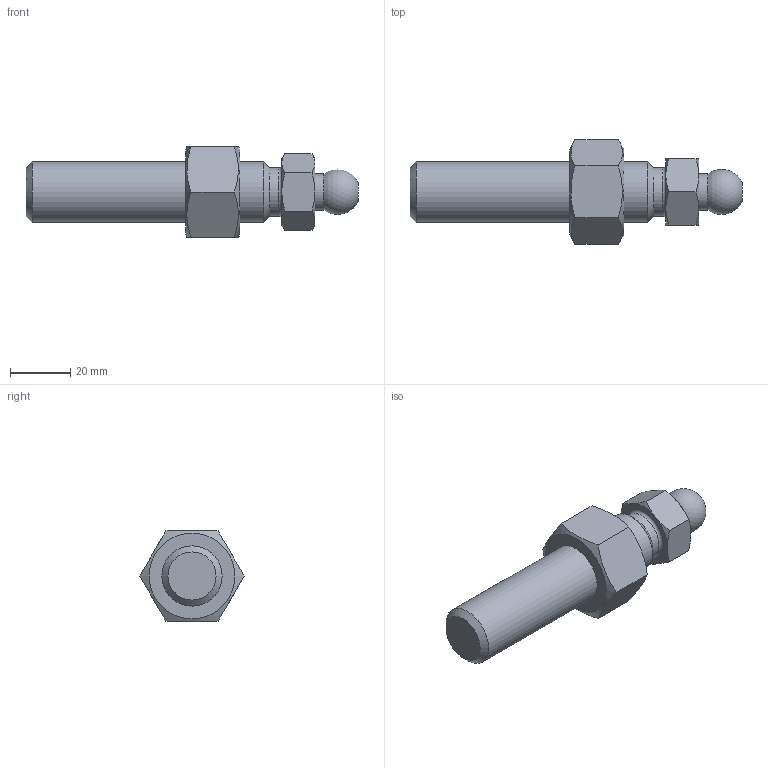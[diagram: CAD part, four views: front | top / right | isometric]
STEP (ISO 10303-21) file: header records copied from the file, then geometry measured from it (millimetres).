
FILE_DESCRIPTION(('STEP AP203'), '1');
FILE_NAME('A00020.120100 ', '', ('UNSPECIFIED'), ('UNSPECIFIED'), 'C3D Converter', 'C3D Toolkit', '');
FILE_SCHEMA(('CONFIG_CONTROL_DESIGN'));
Length unit declared in the file: millimetre
Products named in the file (2): A00020.120085
Assembly tree (1 placements, depth 2):
  A00020.120085
    (unnamed)
Bounding box: 110.3 x 34.64 x 30 mm (x, y, z)
Volume: 42072.1 mm3; surface area: 11253.7 mm2
Topology: 2 solids, 2 shells, 42 faces, 99 edges, 63 vertices
Faces by surface type: plane 18, cone 18, cylinder 4, torus 1, sphere 1
Full cylindrical faces by diameter (mm): 12 x1, 16 x1, 17.294 x1, 20 x1
Entity records: 2380 total; most frequent: CARTESIAN_POINT 1096, DIRECTION 170, ORIENTED_EDGE 170, EDGE_CURVE 85, AXIS2_PLACEMENT_3D 79, VERTEX_POINT 62, EDGE_LOOP 57, FACE_BOUND 45
